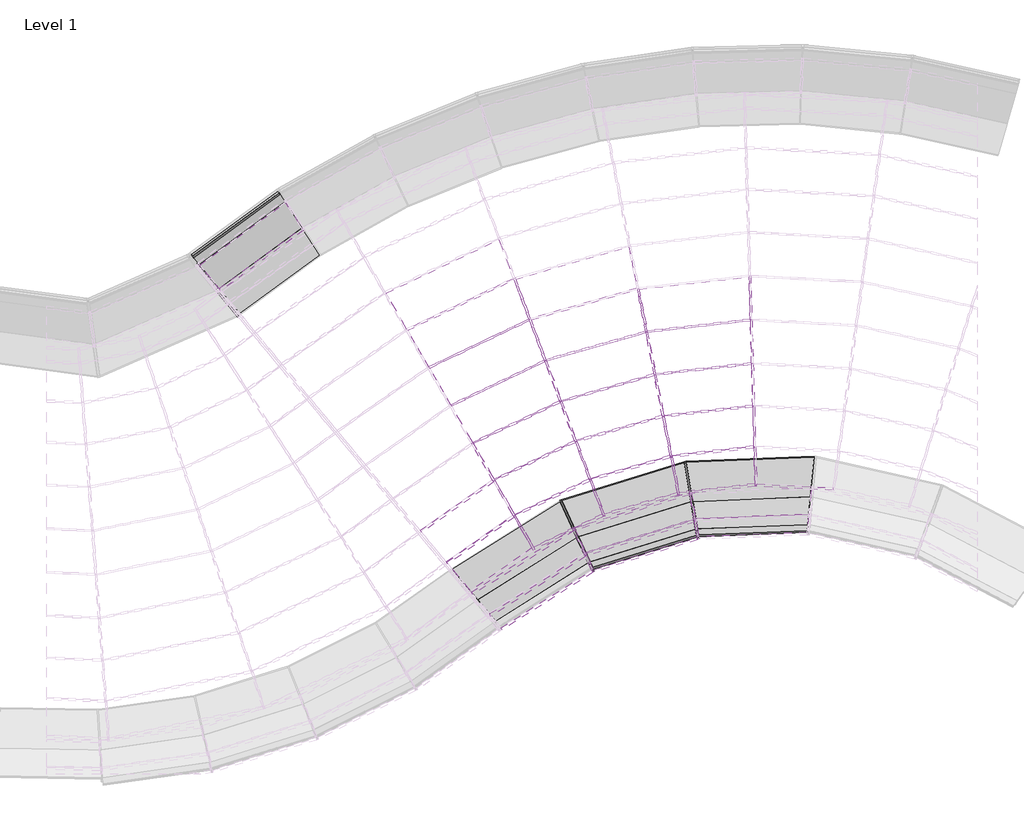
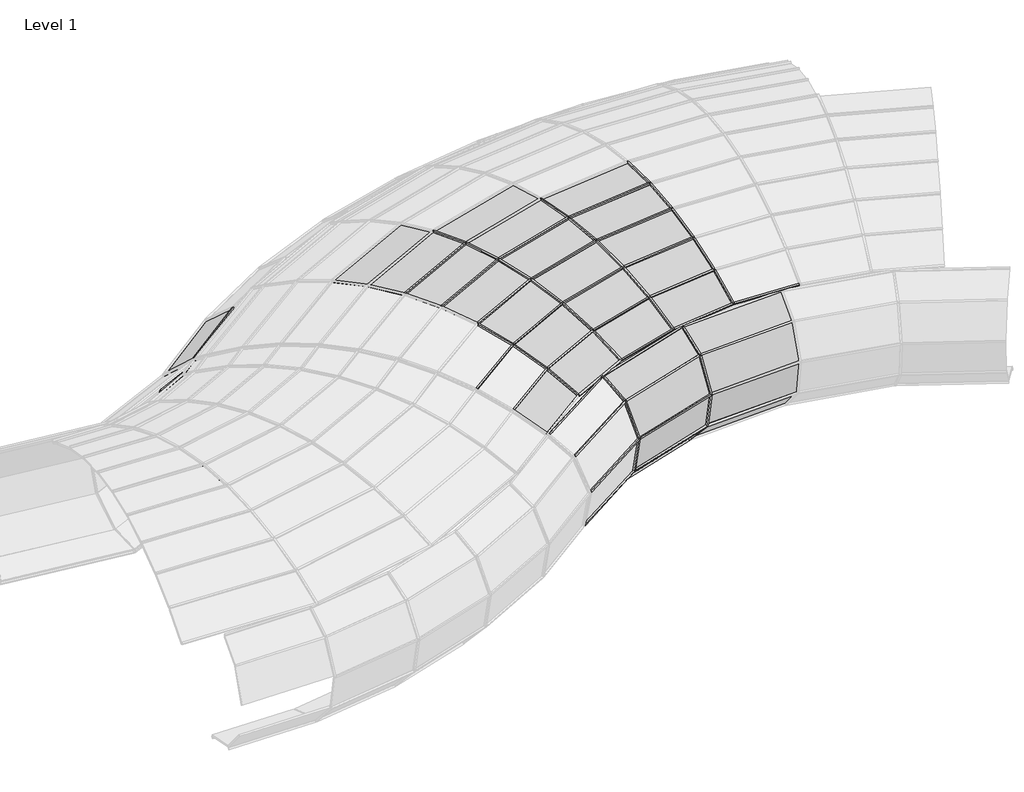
# One storey, part 8 of 23: 64 members, 36 plates.
"""IFC4 building model written with IfcOpenShell, lengths in millimetres."""

from ifc_helpers import new_model, si_unit, origin, place, context, project, spatial, transform, mapped, element, save
from components import member_a1596450, member_f2e23460, member_a2486feb, member_bfa7dfb4, member_bff08ed3, member_8a20969f, member_4c2c1438, member_dcc4074c, member_4657b864, member_55ed2e9f, member_3a0dd7d7, member_3a6df916, member_088ab3f2, member_d0141056, member_dae2b504, member_dc232313, member_c628317b, member_562bdd2e, member_15538b30, member_3e3d858e, member_d6b8231b, member_8c9da58c, member_391bee44, member_01ebdf2a, member_0cd36c09, member_e4cc2466, member_b147afb1, member_007022bd, system_panel_glazed_27e063cc, system_panel_glazed_479e5eac, system_panel_glazed_c66e7ca1, system_panel_glazed_7c909565, system_panel_glazed_86ca3999, system_panel_glazed_45ca7c27, system_panel_glazed_82840720, system_panel_glazed_217bc4a3, system_panel_glazed_a2d5a43f, system_panel_glazed_d9dfaa20, system_panel_glazed_11031df9, system_panel_glazed_6b8754b1, system_panel_glazed_51026fb6, system_panel_glazed_e1e187d2, system_panel_glazed_71638be0, system_panel_glazed_05378adf, system_panel_glazed_02202366, system_panel_glazed_899a4bea, system_panel_glazed_94578217, system_panel_glazed_710fb636

model = new_model("IFC4")

# Units and contexts
model_context = context("Model", 3, world=origin())
ifc_project = project(units=[si_unit("LENGTHUNIT", "METRE", prefix="MILLI")], contexts=[model_context])

# Site, building, storey
site = spatial("IfcSite", under=ifc_project)
building = spatial("IfcBuilding", under=site)
storey = spatial("IfcBuildingStorey", under=building, Name="Level 1", Elevation=0.0)

# Members
placement = place(None, origin())
member_shape = member_a1596450(model_context)
element("IfcMember", 1, ObjectType="Rectangular Mullion : 1\" Square", at=placement, inside=storey, context=model_context, shape_type="MappedRepresentation", body=[
    mapped(member_shape, transform((-1111.8650717, -7337.0860284, 629.7792003), x_axis=(0.1254313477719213, -0.4041226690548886, 0.906063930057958), y_axis=(0.2685839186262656, -0.8653406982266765, -0.4231408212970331), z_axis=(0.9550547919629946, 0.29642932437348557, 0.0))),
])
member_2_shape = member_f2e23460(model_context)
element("IfcMember", 2, ObjectType="Rectangular Mullion : 1\" Square", at=placement, inside=storey, context=model_context, shape_type="MappedRepresentation", body=[
    mapped(member_2_shape, transform((-2753.3298579, -7433.4239268, 170.8694653), x_axis=(0.44993567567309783, -0.7143075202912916, 0.5360248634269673), y_axis=(0.28568595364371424, -0.4535484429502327, -0.8442021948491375), z_axis=(0.8461332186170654, 0.5329714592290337, 0.0))),
])
member_3_shape = member_a2486feb(model_context)
element("IfcMember", 3, ObjectType="Rectangular Mullion : 1\" Square", at=placement, inside=storey, context=model_context, shape_type="MappedRepresentation", body=[
    mapped(member_3_shape, transform((-1179.8997774, -6941.630223, 170.8694653), x_axis=(0.2502462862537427, -0.8062593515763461, 0.5360248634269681), y_axis=(0.15889348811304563, -0.5119331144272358, -0.8442021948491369), z_axis=(0.9550547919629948, 0.29642932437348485, 0.0))),
])
member_4_shape = member_bfa7dfb4(model_context)
element("IfcMember", 4, ObjectType="Rectangular Mullion : 1\" Square", at=placement, inside=storey, context=model_context, shape_type="MappedRepresentation", body=[
    mapped(member_4_shape, transform((-2585.49608, -7797.9041569, 629.7792003), x_axis=(0.22552198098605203, -0.35803350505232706, 0.9060639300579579), y_axis=(0.48290621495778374, -0.766650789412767, -0.42314082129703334), z_axis=(0.8461332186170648, 0.5329714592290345, 0.0))),
])
member_5_shape = member_bff08ed3(model_context)
element("IfcMember", 5, ObjectType="Rectangular Mullion : 1\" Square", at=placement, inside=storey, context=model_context, shape_type="MappedRepresentation", body=[
    mapped(member_5_shape, transform((-2975.2057389, -6891.371253, 0.0), x_axis=(-0.2843538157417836, 0.916149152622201, -0.2825130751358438), y_axis=(0.08374515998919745, -0.2698154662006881, -0.9592634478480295), z_axis=(-0.9550547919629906, -0.29642932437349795, 0.0))),
])
element("IfcMember", 6, ObjectType="Rectangular Mullion : 1\" Square", at=placement, inside=storey, context=model_context, shape_type="MappedRepresentation", body=[
    mapped(member_5_shape, transform((-1254.2952304, -6360.6695321, 0.0), x_axis=(-0.03816382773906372, 0.958503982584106, -0.28251307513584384), y_axis=(0.011239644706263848, -0.2822894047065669, -0.9592634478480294), z_axis=(-0.999208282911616, -0.03978451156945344, 0.0))),
])
member_6_shape = member_8a20969f(model_context)
element("IfcMember", 7, ObjectType="Rectangular Mullion : 1\" Square", at=placement, inside=storey, context=model_context, shape_type="MappedRepresentation", body=[
    mapped(member_6_shape, transform((-2547.3241371, -7880.801168, 1232.5089476), x_axis=(-0.07158711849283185, 0.11365006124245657, 0.9909384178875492), y_axis=(0.5281418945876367, -0.8384659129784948, 0.1343169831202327), z_axis=(0.8461332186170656, 0.5329714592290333, 0.0))),
])
member_7_shape = member_4c2c1438(model_context)
element("IfcMember", 8, ObjectType="Rectangular Mullion : 1\" Square", at=placement, inside=storey, context=model_context, shape_type="MappedRepresentation", body=[
    mapped(member_7_shape, transform((-1096.3913277, -7427.0280926, 1232.5089476), x_axis=(-0.03981549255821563, 0.12828007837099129, 0.9909384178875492), y_axis=(0.2937432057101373, -0.9464004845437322, 0.13431698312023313), z_axis=(0.9550547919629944, 0.2964293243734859, 0.0))),
])
member_8_shape = member_dcc4074c(model_context)
element("IfcMember", 9, ObjectType="Rectangular Mullion : 1\" Square", at=placement, inside=storey, context=model_context, shape_type="MappedRepresentation", body=[
    mapped(member_8_shape, transform((-2650.8102171, -7656.0631521, 1789.6405438), x_axis=(-0.3454437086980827, 0.5484184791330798, 0.7615154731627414), y_axis=(0.4058660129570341, -0.644343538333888, 0.6481467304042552), z_axis=(0.8461332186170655, 0.5329714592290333, 0.0))),
])
member_9_shape = member_4657b864(model_context)
element("IfcMember", 10, ObjectType="Rectangular Mullion : 1\" Square", at=placement, inside=storey, context=model_context, shape_type="MappedRepresentation", body=[
    mapped(member_9_shape, transform((-1138.3414351, -7183.190579, 1789.6405438), x_axis=(-0.19212969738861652, 0.6190156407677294, 0.7615154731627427), y_axis=(0.22573551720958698, -0.7272890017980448, 0.6481467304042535), z_axis=(0.9550547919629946, 0.2964293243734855, 0.0))),
])
member_10_shape = member_55ed2e9f(model_context)
element("IfcMember", 11, ObjectType="Rectangular Mullion : 1\" Square", at=placement, inside=storey, context=model_context, shape_type="MappedRepresentation", body=[
    mapped(member_10_shape, transform((-2817.6547413, -7293.7312581, 2085.6089632), x_axis=(-0.4267186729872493, 0.6774487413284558, 0.5991447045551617), y_axis=(0.31932702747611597, -0.5069562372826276, 0.8006407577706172), z_axis=(0.846133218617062, 0.532971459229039, 0.0))),
])
member_11_shape = member_3a0dd7d7(model_context)
element("IfcMember", 12, ObjectType="Rectangular Mullion : 1\" Square", at=placement, inside=storey, context=model_context, shape_type="MappedRepresentation", body=[
    mapped(member_11_shape, transform((-1205.9751275, -6790.0656875, 2085.6089632), x_axis=(-0.23733339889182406, 0.7646557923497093, 0.5991447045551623), y_axis=(0.17760405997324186, -0.5722160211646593, 0.8006407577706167), z_axis=(0.9550547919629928, 0.29642932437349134, 0.0))),
])
member_12_shape = member_3a6df916(model_context)
element("IfcMember", 13, ObjectType="Rectangular Mullion : 1\" Square", at=placement, inside=storey, context=model_context, shape_type="MappedRepresentation", body=[
    mapped(member_12_shape, transform((-2993.9949592, -5535.8741986, 2763.3769688), x_axis=(-0.4208187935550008, 0.884659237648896, 0.20072263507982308), y_axis=(0.08622265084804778, -0.18126011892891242, 0.9796481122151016), z_axis=(0.9030377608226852, 0.42956117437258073, 0.0))),
])
element("IfcMember", 14, ObjectType="Rectangular Mullion : 1\" Square", at=placement, inside=storey, context=model_context, shape_type="MappedRepresentation", body=[
    mapped(member_12_shape, transform((-1693.052363, -5162.1086673, 2763.3769688), x_axis=(-0.26905503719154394, 0.9419765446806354, 0.2007226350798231), y_axis=(0.05512738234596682, -0.19300401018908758, 0.9796481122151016), z_axis=(0.9615458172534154, 0.2746445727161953, 0.0))),
])
element("IfcMember", 15, ObjectType="Rectangular Mullion : 1\" Square", at=placement, inside=storey, context=model_context, shape_type="MappedRepresentation", body=[
    mapped(member_12_shape, transform((-348.2653143, -5008.1602847, 2763.3769688), x_axis=(-0.10991316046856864, 0.9734626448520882, 0.2007226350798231), y_axis=(0.022520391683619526, -0.19945527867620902, 0.9796481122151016), z_axis=(0.9936860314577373, 0.11219657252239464, 0.0))),
])
member_13_shape = member_088ab3f2(model_context)
element("IfcMember", 16, ObjectType="Rectangular Mullion : 1\" Square", at=placement, inside=storey, context=model_context, shape_type="MappedRepresentation", body=[
    mapped(member_13_shape, transform((-3207.1818204, -4971.4017811, 2850.17796), x_axis=(-0.4280777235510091, 0.8999192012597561, 0.08303549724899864), y_axis=(0.03566882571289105, -0.07498418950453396, 0.996546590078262), z_axis=(0.9030377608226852, 0.42956117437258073, 0.0))),
])
element("IfcMember", 17, ObjectType="Rectangular Mullion : 1\" Square", at=placement, inside=storey, context=model_context, shape_type="MappedRepresentation", body=[
    mapped(member_13_shape, transform((-1810.1622416, -4570.193957, 2850.17796), x_axis=(-0.27369611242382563, 0.9582252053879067, 0.08303549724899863), y_axis=(0.022805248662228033, -0.07984243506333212, 0.996546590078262), z_axis=(0.9615458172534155, 0.27464457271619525, 0.0))),
])
element("IfcMember", 18, ObjectType="Rectangular Mullion : 1\" Square", at=placement, inside=storey, context=model_context, shape_type="MappedRepresentation", body=[
    mapped(member_13_shape, transform((-366.0867826, -4405.0349717, 2850.17796), x_axis=(-0.11180911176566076, 0.9902544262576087, 0.08303549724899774), y_axis=(0.009316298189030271, -0.08251121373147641, 0.9965465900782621), z_axis=(0.9936860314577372, 0.11219657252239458, 0.0))),
])
member_14_shape = member_d0141056(model_context)
element("IfcMember", 19, ObjectType="Rectangular Mullion : 1\" Square", at=placement, inside=storey, context=model_context, shape_type="MappedRepresentation", body=[
    mapped(member_14_shape, transform((-1578.7813335, -5739.674831, 2605.3528615), x_axis=(-0.2606075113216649, 0.912401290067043, 0.3156067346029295), y_axis=(0.0866796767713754, -0.3034703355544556, 0.9488900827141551), z_axis=(0.9615458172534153, 0.2746445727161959, 0.0))),
])
element("IfcMember", 20, ObjectType="Rectangular Mullion : 1\" Square", at=placement, inside=storey, context=model_context, shape_type="MappedRepresentation", body=[
    mapped(member_14_shape, transform((-2785.9759398, -6086.6632954, 2605.3528615), x_axis=(-0.40760633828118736, 0.8568835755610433, 0.3156067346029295), y_axis=(0.1355723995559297, -0.285004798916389, 0.9488900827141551), z_axis=(0.9030377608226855, 0.4295611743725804, 0.0))),
])
element("IfcMember", 21, ObjectType="Rectangular Mullion : 1\" Square", at=placement, inside=storey, context=model_context, shape_type="MappedRepresentation", body=[
    mapped(member_14_shape, transform((-330.8758544, -5596.6652959, 2605.3528615), x_axis=(-0.10646221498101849, 0.9428988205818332, 0.31560673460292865), y_axis=(0.03540999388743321, -0.31361400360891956, 0.9488900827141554), z_axis=(0.9936860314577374, 0.11219657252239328, 0.0))),
])
member_15_shape = member_dae2b504(model_context)
element("IfcMember", 22, ObjectType="Rectangular Mullion : 1\" Square", at=placement, inside=storey, context=model_context, shape_type="MappedRepresentation", body=[
    mapped(member_15_shape, transform((-3919.3555649, -6628.1154515, 2605.3528615), x_axis=(-0.5434276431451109, 0.7778681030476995, 0.31560673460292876), y_axis=(0.1807474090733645, -0.2587237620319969, 0.9488900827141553), z_axis=(0.8197662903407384, 0.5726982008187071, 0.0))),
])
member_16_shape = member_dc232313(model_context)
element("IfcMember", 23, ObjectType="Rectangular Mullion : 1\" Square", at=placement, inside=storey, context=model_context, shape_type="MappedRepresentation", body=[
    mapped(member_16_shape, transform((-314.165791, -6162.1777469, 2378.3537392), x_axis=(-0.10150277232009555, 0.898974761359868, 0.42607694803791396), y_axis=(0.047804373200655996, -0.4233867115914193, 0.9046869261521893), z_axis=(0.9936860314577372, 0.1121965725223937, 0.0))),
])
element("IfcMember", 24, ObjectType="Rectangular Mullion : 1\" Square", at=placement, inside=storey, context=model_context, shape_type="MappedRepresentation", body=[
    mapped(member_16_shape, transform((-1468.974809, -6294.675809, 2378.3537392), x_axis=(-0.24846735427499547, 0.8698979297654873, 0.42607694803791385), y_axis=(0.11701972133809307, -0.409692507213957, 0.9046869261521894), z_axis=(0.9615458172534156, 0.2746445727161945, 0.0))),
])
element("IfcMember", 25, ObjectType="Rectangular Mullion : 1\" Square", at=placement, inside=storey, context=model_context, shape_type="MappedRepresentation", body=[
    mapped(member_16_shape, transform((-2586.0841067, -6615.9333716, 2378.3537392), x_axis=(-0.388618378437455, 0.8169664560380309, 0.42607694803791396), y_axis=(0.18302611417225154, -0.38476357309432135, 0.9046869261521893), z_axis=(0.903037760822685, 0.4295611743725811, 0.0))),
])
member_17_shape = member_c628317b(model_context)
element("IfcMember", 26, ObjectType="Rectangular Mullion : 1\" Square", at=placement, inside=storey, context=model_context, shape_type="MappedRepresentation", body=[
    mapped(member_17_shape, transform((-3422.5036598, -4401.276406, 2864.5209769), x_axis=(-0.4292856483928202, 0.9024585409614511, -0.03581080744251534), y_axis=(-0.015382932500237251, 0.0323385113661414, 0.999358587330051), z_axis=(0.9030377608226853, 0.42956117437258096, 0.0))),
])
member_18_shape = member_562bdd2e(model_context)
element("IfcMember", 27, ObjectType="Rectangular Mullion : 1\" Square", at=placement, inside=storey, context=model_context, shape_type="MappedRepresentation", body=[
    mapped(member_18_shape, transform((-3634.8599263, -7117.1407985, 2378.3537392), x_axis=(-0.5181125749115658, 0.7416318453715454, 0.42607694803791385), y_axis=(0.2440135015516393, -0.3492835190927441, 0.9046869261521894), z_axis=(0.819766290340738, 0.5726982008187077, 0.0))),
])
member_19_shape = member_15538b30(model_context)
element("IfcMember", 28, ObjectType="Rectangular Mullion : 1\" Square", at=placement, inside=storey, context=model_context, shape_type="MappedRepresentation", body=[
    mapped(member_19_shape, transform((-3344.0990022, -7566.5976687, 2085.6089632), x_axis=(0.3764881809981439, -0.7914659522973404, -0.48149589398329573), y_axis=(0.2068319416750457, -0.4348089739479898, 0.8764483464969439), z_axis=(-0.9030377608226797, -0.4295611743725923, 0.0))),
])
element("IfcMember", 29, ObjectType="Rectangular Mullion : 1\" Square", at=placement, inside=storey, context=model_context, shape_type="MappedRepresentation", body=[
    mapped(member_19_shape, transform((-2373.4829728, -7107.2114507, 2085.6089632), x_axis=(0.24071178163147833, -0.842745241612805, -0.4814958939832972), y_axis=(0.13224023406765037, -0.4629803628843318, 0.876448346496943), z_axis=(-0.9615458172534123, -0.2746445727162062, 0.0))),
])
element("IfcMember", 30, ObjectType="Rectangular Mullion : 1\" Square", at=placement, inside=storey, context=model_context, shape_type="MappedRepresentation", body=[
    mapped(member_19_shape, transform((-1340.3634872, -6814.3030995, 2085.6089632), x_axis=(0.09833450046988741, -0.8709144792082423, -0.4814958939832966), y_axis=(0.05402218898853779, -0.47845574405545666, 0.8764483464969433), z_axis=(-0.9936860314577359, -0.11219657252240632, 0.0))),
])
element("IfcMember", 31, ObjectType="Rectangular Mullion : 1\" Square", at=placement, inside=storey, context=model_context, shape_type="MappedRepresentation", body=[
    mapped(member_19_shape, transform((-273.0711056, -6695.9048494, 2085.6089632), x_axis=(-0.04673934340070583, -0.8752011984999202, -0.481495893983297), y_axis=(-0.025677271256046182, -0.48081074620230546, 0.876448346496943), z_axis=(-0.9985770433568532, 0.05332812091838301, 0.0))),
])
member_20_shape = member_3e3d858e(model_context)
element("IfcMember", 32, ObjectType="Rectangular Mullion : 1\" Square", at=placement, inside=storey, context=model_context, shape_type="MappedRepresentation", body=[
    mapped(member_20_shape, transform((-7686.1774394, -3989.9190153, 2085.6089632), x_axis=(0.4544892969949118, -0.6207954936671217, 0.6387898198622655), y_axis=(-0.3773462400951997, 0.5154243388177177, 0.7693812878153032), z_axis=(-0.806876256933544, -0.5907204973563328, 0.0))),
])
member_21_shape = member_d6b8231b(model_context)
element("IfcMember", 33, ObjectType="Rectangular Mullion : 1\" Square", at=placement, inside=storey, context=model_context, shape_type="MappedRepresentation", body=[
    mapped(member_21_shape, transform((-2987.3349348, -6895.1359054, 0.0), x_axis=(0.9083268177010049, 0.41826115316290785, 0.0), y_axis=(0.11723763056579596, -0.2546018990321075, -0.9599131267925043), z_axis=(-0.40149437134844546, 0.8719148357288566, -0.28029767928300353))),
])
element("IfcMember", 34, ObjectType="Rectangular Mullion : 1\" Square", at=placement, inside=storey, context=model_context, shape_type="MappedRepresentation", body=[
    mapped(member_21_shape, transform((-1266.9851756, -6361.1747954, 0.0), x_axis=(0.985521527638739, 0.1695503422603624, 0.0), y_axis=(0.04752456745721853, -0.27623939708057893, -0.9599131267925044), z_axis=(-0.16275359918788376, 0.9460150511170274, -0.2802976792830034))),
])
member_22_shape = member_8c9da58c(model_context)
element("IfcMember", 35, ObjectType="Rectangular Mullion : 1\" Square", at=placement, inside=storey, context=model_context, shape_type="MappedRepresentation", body=[
    mapped(member_22_shape, transform((-2742.583966, -7426.6551893, 170.8694653), x_axis=(0.9083268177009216, 0.41826115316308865, 0.0), y_axis=(0.31486895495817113, -0.6837926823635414, -0.6582439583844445), z_axis=(-0.27531787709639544, 0.5979006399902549, -0.7528046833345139))),
])
element("IfcMember", 36, ObjectType="Rectangular Mullion : 1\" Square", at=placement, inside=storey, context=model_context, shape_type="MappedRepresentation", body=[
    mapped(member_22_shape, transform((-2574.7501881, -7791.1354194, 629.7792003), x_axis=(0.9083268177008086, 0.41826115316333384, 0.0), y_axis=(0.4135473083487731, -0.8980898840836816, -0.14971033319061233), z_axis=(-0.06261801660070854, 0.1359859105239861, -0.9887299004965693))),
])
element("IfcMember", 37, ObjectType="Rectangular Mullion : 1\" Square", at=placement, inside=storey, context=model_context, shape_type="MappedRepresentation", body=[
    mapped(member_22_shape, transform((-1167.7705815, -6937.8655706, 170.8694653), x_axis=(0.9855215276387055, 0.1695503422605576, 0.0), y_axis=(0.12763829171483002, -0.7419052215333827, -0.6582439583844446), z_axis=(-0.1116054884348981, 0.6487135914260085, -0.7528046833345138))),
])
element("IfcMember", 38, ObjectType="Rectangular Mullion : 1\" Square", at=placement, inside=storey, context=model_context, shape_type="MappedRepresentation", body=[
    mapped(member_22_shape, transform((-1099.7358758, -7333.3213759, 629.7792003), x_axis=(0.9855215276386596, 0.16955034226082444, 0.0), y_axis=(0.16763949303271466, -0.9744146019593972, -0.14971033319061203), z_axis=(-0.02538343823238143, 0.14754275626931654, -0.9887299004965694))),
])
member_23_shape = member_391bee44(model_context)
element("IfcMember", 39, ObjectType="Rectangular Mullion : 1\" Square", at=placement, inside=storey, context=model_context, shape_type="MappedRepresentation", body=[
    mapped(member_23_shape, transform((-2536.5782452, -7874.0324305, 1232.5089476), x_axis=(0.9083268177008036, 0.41826115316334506, 0.0), y_axis=(0.3822613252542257, -0.8301469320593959, 0.4058723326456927), z_axis=(0.16976062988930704, -0.3686647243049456, -0.9139297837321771))),
])
element("IfcMember", 40, ObjectType="Rectangular Mullion : 1\" Square", at=placement, inside=storey, context=model_context, shape_type="MappedRepresentation", body=[
    mapped(member_23_shape, transform((-1084.2621319, -7423.2634402, 1232.5089476), x_axis=(0.9855215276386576, 0.16955034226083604, 0.0), y_axis=(0.15495710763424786, -0.900697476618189, 0.4058723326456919), z_axis=(0.06881579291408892, -0.3999959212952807, -0.9139297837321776))),
])
member_24_shape = member_01ebdf2a(model_context)
element("IfcMember", 41, ObjectType="Rectangular Mullion : 1\" Square", at=placement, inside=storey, context=model_context, shape_type="MappedRepresentation", body=[
    mapped(member_24_shape, transform((-2640.0643252, -7649.2944145, 1789.6405438), x_axis=(0.9083268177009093, 0.4182611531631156, 0.0), y_axis=(0.24922510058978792, -0.541235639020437, 0.8030883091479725), z_axis=(0.3359006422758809, -0.7294666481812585, -0.5958600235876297))),
])
element("IfcMember", 42, ObjectType="Rectangular Mullion : 1\" Square", at=placement, inside=storey, context=model_context, shape_type="MappedRepresentation", body=[
    mapped(member_24_shape, transform((-1126.2122392, -7179.4259265, 1789.6405438), x_axis=(0.9855215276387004, 0.16955034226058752, 0.0), y_axis=(0.10102827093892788, -0.5872328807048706, 0.8030883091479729), z_axis=(0.13616389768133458, -0.7914608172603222, -0.5958600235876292))),
])
member_25_shape = member_0cd36c09(model_context)
element("IfcMember", 43, ObjectType="Rectangular Mullion : 1\" Square", at=placement, inside=storey, context=model_context, shape_type="MappedRepresentation", body=[
    mapped(member_25_shape, transform((-3624.4488944, -7109.8675314, 2378.3537392), x_axis=(0.864370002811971, 0.5028563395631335, 0.0), y_axis=(0.18725057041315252, -0.3218688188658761, 0.9280828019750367), z_axis=(0.46669232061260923, -0.8022069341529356, -0.3723738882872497))),
])
element("IfcMember", 44, ObjectType="Rectangular Mullion : 1\" Square", at=placement, inside=storey, context=model_context, shape_type="MappedRepresentation", body=[
    mapped(member_25_shape, transform((-3908.9445331, -6620.8421843, 2605.3528615), x_axis=(0.8643700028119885, 0.5028563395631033, 0.0), y_axis=(0.13035338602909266, -0.22406708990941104, 0.9658167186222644), z_axis=(0.48566705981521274, -0.8348229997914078, -0.2592258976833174))),
])
element("IfcMember", 45, ObjectType="Rectangular Mullion : 1\" Square", at=placement, inside=storey, context=model_context, shape_type="MappedRepresentation", body=[
    mapped(member_25_shape, transform((-2574.6155271, -6610.4779447, 2378.3537392), x_axis=(0.9355040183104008, 0.35331605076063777, 0.0), y_axis=(0.13156567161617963, -0.3483572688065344, 0.9280828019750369), z_axis=(0.3279065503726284, -0.868225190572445, -0.37237388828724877))),
])
element("IfcMember", 46, ObjectType="Rectangular Mullion : 1\" Square", at=placement, inside=storey, context=model_context, shape_type="MappedRepresentation", body=[
    mapped(member_25_shape, transform((-2774.5073603, -6081.2078685, 2605.3528615), x_axis=(0.9355040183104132, 0.3533160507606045, 0.0), y_axis=(0.0915886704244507, -0.24250686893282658, 0.9658167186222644), z_axis=(0.34123854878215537, -0.903525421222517, -0.25922589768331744))),
])
element("IfcMember", 47, ObjectType="Rectangular Mullion : 1\" Square", at=placement, inside=storey, context=model_context, shape_type="MappedRepresentation", body=[
    mapped(member_25_shape, transform((-2982.5263796, -5530.4187717, 2763.3769688), x_axis=(0.9355040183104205, 0.35331605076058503, 0.0), y_axis=(0.050308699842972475, -0.13320648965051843, 0.9898106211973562), z_axis=(0.3497159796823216, -0.9259718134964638, -0.1423900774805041))),
])
element("IfcMember", 48, ObjectType="Rectangular Mullion : 1\" Square", at=placement, inside=storey, context=model_context, shape_type="MappedRepresentation", body=[
    mapped(member_25_shape, transform((-3195.7132408, -4965.9463542, 2850.17796), x_axis=(0.9355040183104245, 0.3533160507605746, 0.0), y_axis=(0.00831302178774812, -0.02201107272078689, 0.9997231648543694), z_axis=(0.35321824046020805, -0.9352450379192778, -0.023528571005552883))),
])
element("IfcMember", 49, ObjectType="Rectangular Mullion : 1\" Square", at=placement, inside=storey, context=model_context, shape_type="MappedRepresentation", body=[
    mapped(member_25_shape, transform((-1456.7631771, -6291.1878229, 2378.3537392), x_axis=(0.9809843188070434, 0.1940870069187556, 0.0), y_axis=(0.07227293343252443, -0.3652929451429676, 0.9280828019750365), z_axis=(0.18012881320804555, -0.9104346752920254, -0.3723738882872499))),
])
element("IfcMember", 50, ObjectType="Rectangular Mullion : 1\" Square", at=placement, inside=storey, context=model_context, shape_type="MappedRepresentation", body=[
    mapped(member_25_shape, transform((-1566.5697016, -5736.1868449, 2605.3528615), x_axis=(0.9809843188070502, 0.1940870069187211, 0.0), y_axis=(0.050312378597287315, -0.2542965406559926, 0.9658167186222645), z_axis=(0.18745247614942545, -0.9474510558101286, -0.2592258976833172))),
])
element("IfcMember", 51, ObjectType="Rectangular Mullion : 1\" Square", at=placement, inside=storey, context=model_context, shape_type="MappedRepresentation", body=[
    mapped(member_25_shape, transform((-1680.8407311, -5158.6206813, 2763.3769688), x_axis=(0.9809843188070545, 0.19408700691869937, 0.0), y_axis=(0.02763606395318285, -0.13968243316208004, 0.9898106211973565), z_axis=(0.19210938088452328, -0.9709886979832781, -0.142390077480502))),
])
element("IfcMember", 52, ObjectType="Rectangular Mullion : 1\" Square", at=placement, inside=storey, context=model_context, shape_type="MappedRepresentation", body=[
    mapped(member_25_shape, transform((-1797.9506097, -4566.705971, 2850.17796), x_axis=(0.9809843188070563, 0.19408700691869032, 0.0), y_axis=(0.004566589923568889, -0.023081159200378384, 0.9997231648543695), z_axis=(0.19403327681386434, -0.9807127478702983, -0.023528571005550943))),
])
element("IfcMember", 53, ObjectType="Rectangular Mullion : 1\" Square", at=placement, inside=storey, context=model_context, shape_type="MappedRepresentation", body=[
    mapped(member_25_shape, transform((-301.5459784, -6160.7528504, 2378.3537392), x_axis=(0.9995637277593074, 0.02953564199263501, 0.0), y_axis=(0.010998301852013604, -0.37221143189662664, 0.9280828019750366), z_axis=(0.02741152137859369, -0.9276779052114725, -0.3723738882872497))),
])
element("IfcMember", 54, ObjectType="Rectangular Mullion : 1\" Square", at=placement, inside=storey, context=model_context, shape_type="MappedRepresentation", body=[
    mapped(member_25_shape, transform((-318.2560418, -5595.2403994, 2605.3528615), x_axis=(0.9995637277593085, 0.029535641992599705, 0.0), y_axis=(0.007656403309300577, -0.2591128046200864, 0.9658167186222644), z_axis=(0.028526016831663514, -0.9653953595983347, -0.25922589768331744))),
])
element("IfcMember", 55, ObjectType="Rectangular Mullion : 1\" Square", at=placement, inside=storey, context=model_context, shape_type="MappedRepresentation", body=[
    mapped(member_25_shape, transform((-335.6455017, -5006.7353882, 2763.3769688), x_axis=(0.9995637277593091, 0.02953564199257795, 0.0), y_axis=(0.004205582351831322, -0.1423279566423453, 0.9898106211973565), z_axis=(0.02923469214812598, -0.9893787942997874, -0.14239007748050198))),
])
element("IfcMember", 56, ObjectType="Rectangular Mullion : 1\" Square", at=placement, inside=storey, context=model_context, shape_type="MappedRepresentation", body=[
    mapped(member_25_shape, transform((-353.46697, -4403.6100752, 2850.17796), x_axis=(0.9995637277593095, 0.02953564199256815, 0.0), y_axis=(0.0006949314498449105, -0.023518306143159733, 0.9997231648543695), z_axis=(0.029527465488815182, -0.9992870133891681, -0.023528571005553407))),
])
element("IfcMember", 57, ObjectType="Rectangular Mullion : 1\" Square", at=placement, inside=storey, context=model_context, shape_type="MappedRepresentation", body=[
    mapped(member_25_shape, transform((-3411.0350802, -4395.8209791, 2864.5209769), x_axis=(0.9355040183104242, 0.3533160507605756, 0.0), y_axis=(-0.03380091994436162, 0.08949748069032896, 0.9954133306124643), z_axis=(0.3516955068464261, -0.9312131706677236, 0.09566766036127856))),
])
member_26_shape = member_e4cc2466(model_context)
element("IfcMember", 58, ObjectType="Rectangular Mullion : 1\" Square", at=placement, inside=storey, context=model_context, shape_type="MappedRepresentation", body=[
    mapped(member_26_shape, transform((-3355.5675817, -7572.0530956, 2085.6089632), x_axis=(0.8643700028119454, 0.5028563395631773, 0.0), y_axis=(0.2414838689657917, -0.41509154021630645, 0.877145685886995), z_axis=(0.441078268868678, -0.7581784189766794, -0.48022437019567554))),
])
element("IfcMember", 59, ObjectType="Rectangular Mullion : 1\" Square", at=placement, inside=storey, context=model_context, shape_type="MappedRepresentation", body=[
    mapped(member_26_shape, transform((-2385.6946047, -7110.6994368, 2085.6089632), x_axis=(0.9355040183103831, 0.3533160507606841, 0.0), y_axis=(0.16967097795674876, -0.4492518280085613, 0.8771456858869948), z_axis=(0.3099096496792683, -0.8205733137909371, -0.4802243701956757))),
])
element("IfcMember", 60, ObjectType="Rectangular Mullion : 1\" Square", at=placement, inside=storey, context=model_context, shape_type="MappedRepresentation", body=[
    mapped(member_26_shape, transform((-1352.9832998, -6815.727996, 2085.6089632), x_axis=(0.9809843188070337, 0.19408700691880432, 0.0), y_axis=(0.09320531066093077, -0.4710925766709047, 0.8771456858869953), z_axis=(0.17024258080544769, -0.8604661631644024, -0.48022437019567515))),
])
element("IfcMember", 61, ObjectType="Rectangular Mullion : 1\" Square", at=placement, inside=storey, context=model_context, shape_type="MappedRepresentation", body=[
    mapped(member_26_shape, transform((-285.753034, -6695.2275823, 2085.6089632), x_axis=(0.9995637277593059, 0.029535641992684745, 0.0), y_axis=(0.01418373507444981, -0.4800148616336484, 0.8771456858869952), z_axis=(0.025907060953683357, -0.8767630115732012, -0.48022437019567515))),
])
element("IfcMember", 62, ObjectType="Rectangular Mullion : 1\" Square", at=placement, inside=storey, context=model_context, shape_type="MappedRepresentation", body=[
    mapped(member_24_shape, transform((-7754.5170849, -3976.7167342, 113.4427618), x_axis=(0.7730505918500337, 0.6343443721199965, 0.0), y_axis=(-0.14487743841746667, 0.1765564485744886, -0.9735698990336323), z_axis=(-0.6175785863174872, 0.7526187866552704, 0.2283892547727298))),
])
member_27_shape = member_b147afb1(model_context)
element("IfcMember", 63, ObjectType="Rectangular Mullion : 1\" Square", at=placement, inside=storey, context=model_context, shape_type="MappedRepresentation", body=[
    mapped(member_27_shape, transform((-7740.012547, -3964.7474807, 113.4427618), x_axis=(-0.7867125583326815, -0.6165764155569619, -0.030279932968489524), y_axis=(-0.4008693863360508, 0.5475550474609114, -0.7344979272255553), z_axis=(0.46945402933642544, -0.5657004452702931, -0.6779350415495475))),
])
member_28_shape = member_007022bd(model_context)
element("IfcMember", 64, ObjectType="Rectangular Mullion : 1\" Square", at=placement, inside=storey, context=model_context, shape_type="MappedRepresentation", body=[
    mapped(member_28_shape, transform((-7740.012547, -3964.7474807, 113.4427618), x_axis=(0.7696248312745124, 0.6384960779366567, 0.0006144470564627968), y_axis=(-0.14536530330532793, 0.17615606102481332, -0.973569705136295), z_axis=(-0.6217286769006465, 0.74919410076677, 0.22838925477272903))),
])

# Plates
system_panel_glazed_shape = system_panel_glazed_27e063cc(model_context)
element("IfcPlate", 65, ObjectType="System Panel : Glazed", at=placement, inside=storey, context=model_context, shape_type="MappedRepresentation", body=[
    mapped(system_panel_glazed_shape, transform((-3731.0076368, -7392.364483, 7.1758321), x_axis=(0.8461332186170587, 0.5329714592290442, 0.0), y_axis=(-0.15057140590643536, 0.23904369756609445, 0.9592634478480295), z_axis=(0.5112600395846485, -0.8116646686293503, 0.28251307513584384))),
])
system_panel_glazed_2_shape = system_panel_glazed_479e5eac(model_context)
element("IfcPlate", 66, ObjectType="System Panel : Glazed", at=placement, inside=storey, context=model_context, shape_type="MappedRepresentation", body=[
    mapped(system_panel_glazed_2_shape, transform((-3803.316797, -7857.6996082, 2097.8389589), x_axis=(0.819766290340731, 0.5726982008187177, 0.0), y_axis=(-0.27575183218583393, 0.3947141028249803, -0.8764483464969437), z_axis=(-0.5019403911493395, 0.7184828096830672, 0.48149589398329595))),
])
system_panel_glazed_3_shape = system_panel_glazed_c66e7ca1(model_context)
element("IfcPlate", 67, ObjectType="System Panel : Glazed", at=placement, inside=storey, context=model_context, shape_type="MappedRepresentation", body=[
    mapped(system_panel_glazed_3_shape, transform((-7129.2735474, -3557.9855859, 2069.3837017), x_axis=(0.8068762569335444, 0.5907204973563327, 0.0), y_axis=(0.3773462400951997, -0.5154243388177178, -0.7693812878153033), z_axis=(-0.45448929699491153, 0.620795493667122, -0.6387898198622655))),
])
system_panel_glazed_4_shape = system_panel_glazed_7c909565(model_context)
element("IfcPlate", 68, ObjectType="System Panel : Glazed", at=placement, inside=storey, context=model_context, shape_type="MappedRepresentation", body=[
    mapped(system_panel_glazed_4_shape, transform((-2119.9374683, -6651.4255389, 7.1758321), x_axis=(0.9550547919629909, 0.29642932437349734, 0.0), y_axis=(-0.08374515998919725, 0.26981546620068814, 0.9592634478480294), z_axis=(0.28435381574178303, -0.9161491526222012, 0.28251307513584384))),
])
element("IfcPlate", 69, ObjectType="System Panel : Glazed", at=placement, inside=storey, context=model_context, shape_type="MappedRepresentation", body=[
    mapped(system_panel_glazed_4_shape, transform((-366.0738721, -6349.6886771, 7.1758321), x_axis=(0.999208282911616, 0.03978451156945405, 0.0), y_axis=(-0.011239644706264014, 0.2822894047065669, 0.9592634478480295), z_axis=(0.03816382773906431, -0.9585039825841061, 0.2825130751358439))),
])
system_panel_glazed_5_shape = system_panel_glazed_86ca3999(model_context)
element("IfcPlate", 70, ObjectType="System Panel : Glazed", at=placement, inside=storey, context=model_context, shape_type="MappedRepresentation", body=[
    mapped(system_panel_glazed_5_shape, transform((-3430.3622695, -7869.7123109, 180.4653952), x_axis=(0.8461332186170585, 0.5329714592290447, 0.0), y_axis=(-0.40270525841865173, 0.639325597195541, 0.6550505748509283), z_axis=(0.34912326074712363, -0.5542600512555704, 0.7555850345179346))),
])
system_panel_glazed_6_shape = system_panel_glazed_45ca7c27(model_context)
element("IfcPlate", 71, ObjectType="System Panel : Glazed", at=placement, inside=storey, context=model_context, shape_type="MappedRepresentation", body=[
    mapped(system_panel_glazed_6_shape, transform((-1952.711236, -7190.2056167, 180.4653952), x_axis=(0.955054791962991, 0.29642932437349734, 0.0), y_axis=(-0.22397756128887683, 0.7216251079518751, 0.6550505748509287), z_axis=(0.19417619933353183, -0.6256091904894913, 0.7555850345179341))),
])
element("IfcPlate", 72, ObjectType="System Panel : Glazed", at=placement, inside=storey, context=model_context, shape_type="MappedRepresentation", body=[
    mapped(system_panel_glazed_6_shape, transform((-343.6300266, -6913.3772957, 180.4653952), x_axis=(0.999208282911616, 0.039784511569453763, 0.0), y_axis=(-0.030060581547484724, 0.7549868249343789, 0.6550505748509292), z_axis=(0.026060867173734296, -0.6545319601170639, 0.7555850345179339))),
])
system_panel_glazed_7_shape = system_panel_glazed_82840720(model_context)
element("IfcPlate", 73, ObjectType="System Panel : Glazed", at=placement, inside=storey, context=model_context, shape_type="MappedRepresentation", body=[
    mapped(system_panel_glazed_7_shape, transform((-1836.6841165, -7564.0291469, 642.3384564), x_axis=(0.9550547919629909, 0.2964293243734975, 0.0), y_axis=(-0.2931442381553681, 0.9444706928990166, 0.14846402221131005), z_axis=(0.04400908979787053, -0.1417912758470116, 0.9889178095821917))),
])
element("IfcPlate", 74, ObjectType="System Panel : Glazed", at=placement, inside=storey, context=model_context, shape_type="MappedRepresentation", body=[
    mapped(system_panel_glazed_7_shape, transform((-328.0577404, -7304.4831996, 642.3384564), x_axis=(0.9992082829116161, 0.03978451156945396, 0.0), y_axis=(-0.039343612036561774, 0.9881348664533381, 0.14846402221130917), z_axis=(0.005906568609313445, -0.14834648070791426, 0.9889178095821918))),
])
system_panel_glazed_8_shape = system_panel_glazed_217bc4a3(model_context)
element("IfcPlate", 75, ObjectType="System Panel : Glazed", at=placement, inside=storey, context=model_context, shape_type="MappedRepresentation", body=[
    mapped(system_panel_glazed_8_shape, transform((-1811.9372688, -7643.7601099, 1244.1320982), x_axis=(0.955054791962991, 0.29642932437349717, 0.0), y_axis=(-0.2712946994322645, 0.8740744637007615, -0.4029801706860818), z_axis=(-0.1194551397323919, 0.3848681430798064, 0.9152087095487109))),
])
element("IfcPlate", 76, ObjectType="System Panel : Glazed", at=placement, inside=storey, context=model_context, shape_type="MappedRepresentation", body=[
    mapped(system_panel_glazed_8_shape, transform((-324.7364048, -7387.9002343, 1244.1320982), x_axis=(0.999208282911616, 0.03978451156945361, 0.0), y_axis=(-0.03641113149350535, 0.9144841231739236, -0.40298017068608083), z_axis=(-0.016032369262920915, 0.40266112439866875, 0.9152087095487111))),
])
system_panel_glazed_9_shape = system_panel_glazed_a2d5a43f(model_context)
element("IfcPlate", 77, ObjectType="System Panel : Glazed", at=placement, inside=storey, context=model_context, shape_type="MappedRepresentation", body=[
    mapped(system_panel_glazed_9_shape, transform((-1886.1524164, -7404.649042, 1797.2496815), x_axis=(0.955054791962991, 0.296429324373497, 0.0), y_axis=(-0.1776040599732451, 0.5722160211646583, -0.8006407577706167), z_axis=(-0.2373333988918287, 0.7646557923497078, 0.5991447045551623))),
])
element("IfcPlate", 78, ObjectType="System Panel : Glazed", at=placement, inside=storey, context=model_context, shape_type="MappedRepresentation", body=[
    mapped(system_panel_glazed_9_shape, transform((-334.6970031, -7137.7347342, 1797.2496815), x_axis=(0.999208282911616, 0.039784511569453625, 0.0), y_axis=(-0.02383667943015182, 0.5986703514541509, -0.8006407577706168), z_axis=(-0.03185310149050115, 0.8000068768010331, 0.5991447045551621))),
])
system_panel_glazed_10_shape = system_panel_glazed_d9dfaa20(model_context)
element("IfcPlate", 79, ObjectType="System Panel : Glazed", at=placement, inside=storey, context=model_context, shape_type="MappedRepresentation", body=[
    mapped(system_panel_glazed_10_shape, transform((-2880.193893, -7321.273031, 2097.8389589), x_axis=(0.9030377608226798, 0.42956117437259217, 0.0), y_axis=(-0.20683194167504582, 0.43480897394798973, -0.8764483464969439), z_axis=(-0.3764881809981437, 0.7914659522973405, 0.48149589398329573))),
])
element("IfcPlate", 80, ObjectType="System Panel : Glazed", at=placement, inside=storey, context=model_context, shape_type="MappedRepresentation", body=[
    mapped(system_panel_glazed_10_shape, transform((-1875.4530315, -6941.8079872, 2097.8389589), x_axis=(0.961545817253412, 0.27464457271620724, 0.0), y_axis=(-0.13224023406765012, 0.4629803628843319, -0.876448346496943), z_axis=(-0.2407117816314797, 0.8427452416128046, 0.48149589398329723))),
])
element("IfcPlate", 81, ObjectType="System Panel : Glazed", at=placement, inside=storey, context=model_context, shape_type="MappedRepresentation", body=[
    mapped(system_panel_glazed_10_shape, transform((-821.8658632, -6733.3565614, 2097.8389589), x_axis=(0.9936860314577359, 0.1121965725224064, 0.0), y_axis=(-0.05402218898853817, 0.47845574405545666, -0.8764483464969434), z_axis=(-0.0983345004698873, 0.8709144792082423, 0.4814958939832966))),
])
system_panel_glazed_11_shape = system_panel_glazed_11031df9(model_context)
element("IfcPlate", 82, ObjectType="System Panel : Glazed", at=placement, inside=storey, context=model_context, shape_type="MappedRepresentation", body=[
    mapped(system_panel_glazed_11_shape, transform((-3104.5928773, -6849.5340369, 2383.0969125), x_axis=(0.9030377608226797, 0.4295611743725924, 0.0), y_axis=(-0.1604317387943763, 0.33726492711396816, -0.9276389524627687), z_axis=(-0.39847767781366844, 0.8376930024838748, 0.37347821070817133))),
])
element("IfcPlate", 83, ObjectType="System Panel : Glazed", at=placement, inside=storey, context=model_context, shape_type="MappedRepresentation", body=[
    mapped(system_panel_glazed_11_shape, transform((-2018.9249439, -6439.5048984, 2383.0969125), x_axis=(0.9615458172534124, 0.27464457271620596, 0.0), y_axis=(-0.10257376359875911, 0.3591164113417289, -0.9276389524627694), z_axis=(-0.25477100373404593, 0.891967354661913, 0.3734782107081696))),
])
element("IfcPlate", 84, ObjectType="System Panel : Glazed", at=placement, inside=storey, context=model_context, shape_type="MappedRepresentation", body=[
    mapped(system_panel_glazed_11_shape, transform((-880.4763672, -6214.2637069, 2383.0969125), x_axis=(0.9936860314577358, 0.1121965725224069, 0.0), y_axis=(-0.04190297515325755, 0.3711200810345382, -0.9276389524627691), z_axis=(-0.1040779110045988, 0.92178186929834, 0.3734782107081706))),
])
system_panel_glazed_12_shape = system_panel_glazed_6b8754b1(model_context)
element("IfcPlate", 85, ObjectType="System Panel : Glazed", at=placement, inside=storey, context=model_context, shape_type="MappedRepresentation", body=[
    mapped(system_panel_glazed_12_shape, transform((-3346.9936676, -6339.9510486, 2608.6556077), x_axis=(0.9030377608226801, 0.4295611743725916, 0.0), y_axis=(-0.11171114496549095, 0.23484287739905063, -0.9655927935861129), z_axis=(-0.4147811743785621, 0.8719667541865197, 0.260058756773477))),
])
element("IfcPlate", 86, ObjectType="System Panel : Glazed", at=placement, inside=storey, context=model_context, shape_type="MappedRepresentation", body=[
    mapped(system_panel_glazed_12_shape, transform((-2173.9065052, -5896.905893, 2608.6556077), x_axis=(0.9615458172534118, 0.27464457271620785, 0.0), y_axis=(-0.07142372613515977, 0.2500584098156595, -0.9655927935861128), z_axis=(-0.2651948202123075, 0.9284617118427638, 0.26005875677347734))),
])
element("IfcPlate", 87, ObjectType="System Panel : Glazed", at=placement, inside=storey, context=model_context, shape_type="MappedRepresentation", body=[
    mapped(system_panel_glazed_12_shape, transform((-943.7887415, -5653.528022, 2608.6556077), x_axis=(0.9936860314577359, 0.11219657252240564, 0.0), y_axis=(-0.029177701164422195, 0.2584167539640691, -0.9655927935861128), z_axis=(-0.10833620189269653, 0.9594960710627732, 0.2600587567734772))),
])
system_panel_glazed_13_shape = system_panel_glazed_51026fb6(model_context)
element("IfcPlate", 88, ObjectType="System Panel : Glazed", at=placement, inside=storey, context=model_context, shape_type="MappedRepresentation", body=[
    mapped(system_panel_glazed_13_shape, transform((-3599.1662378, -5809.8255001, 2765.1914265), x_axis=(0.9030377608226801, 0.4295611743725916, 0.0), y_axis=(-0.06137170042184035, 0.1290176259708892, -0.9897413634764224), z_axis=(-0.42515446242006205, 0.8937738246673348, 0.14287068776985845))),
])
element("IfcPlate", 89, ObjectType="System Panel : Glazed", at=placement, inside=storey, context=model_context, shape_type="MappedRepresentation", body=[
    mapped(system_panel_glazed_13_shape, transform((-2335.1357594, -5332.4333693, 2765.1914265), x_axis=(0.9615458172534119, 0.27464457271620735, 0.0), y_axis=(-0.03923865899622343, 0.13737671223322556, -0.9897413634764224), z_axis=(-0.27182709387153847, 0.9516816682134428, 0.14287068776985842))),
])
element("IfcPlate", 90, ObjectType="System Panel : Glazed", at=placement, inside=storey, context=model_context, shape_type="MappedRepresentation", body=[
    mapped(system_panel_glazed_13_shape, transform((-1009.6533953, -5070.1876842, 2765.1914265), x_axis=(0.9936860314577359, 0.11219657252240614, 0.0), y_axis=(-0.016029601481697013, 0.14196860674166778, -0.9897413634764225), z_axis=(-0.11104558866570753, 0.9834921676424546, 0.14287068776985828))),
])
system_panel_glazed_14_shape = system_panel_glazed_e1e187d2(model_context)
element("IfcPlate", 91, ObjectType="System Panel : Glazed", at=placement, inside=storey, context=model_context, shape_type="MappedRepresentation", body=[
    mapped(system_panel_glazed_14_shape, transform((-3857.522993, -5266.6993528, 2850.4778018), x_axis=(0.9030377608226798, 0.4295611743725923, 0.0), y_axis=(-0.010141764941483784, 0.021320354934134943, -0.9997212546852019), z_axis=(-0.42944143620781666, 0.9027860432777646, 0.023609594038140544))),
])
element("IfcPlate", 92, ObjectType="System Panel : Glazed", at=placement, inside=storey, context=model_context, shape_type="MappedRepresentation", body=[
    mapped(system_panel_glazed_14_shape, transform((-2500.3189391, -4754.1179347, 2850.4778018), x_axis=(0.9615458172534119, 0.27464457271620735, 0.0), y_axis=(-0.006484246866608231, 0.022701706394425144, -0.9997212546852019), z_axis=(-0.274568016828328, 0.9612777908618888, 0.023609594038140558))),
])
element("IfcPlate", 93, ObjectType="System Panel : Glazed", at=placement, inside=storey, context=model_context, shape_type="MappedRepresentation", body=[
    mapped(system_panel_glazed_14_shape, transform((-1077.1332891, -4472.5417282, 2850.4778018), x_axis=(0.9936860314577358, 0.11219657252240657, 0.0), y_axis=(-0.0026489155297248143, 0.023460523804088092, -0.9997212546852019), z_axis=(-0.11216529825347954, 0.9934090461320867, 0.023609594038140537))),
])
system_panel_glazed_15_shape = system_panel_glazed_71638be0(model_context)
element("IfcPlate", 94, ObjectType="System Panel : Glazed", at=placement, inside=storey, context=model_context, shape_type="MappedRepresentation", body=[
    mapped(system_panel_glazed_15_shape, transform((-4118.3884212, -4718.2993898, 2863.3018499), x_axis=(0.9030377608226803, 0.4295611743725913, 0.0), y_axis=(0.041235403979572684, -0.08668643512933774, -0.9953818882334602), z_axis=(-0.42757741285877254, 0.8988674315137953, -0.09599425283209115))),
])
element("IfcPlate", 95, ObjectType="System Panel : Glazed", at=placement, inside=storey, context=model_context, shape_type="MappedRepresentation", body=[
    mapped(system_panel_glazed_15_shape, transform((-2667.1060659, -4170.1869923, 2863.3018499), x_axis=(0.9615458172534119, 0.2746445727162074, 0.0), y_axis=(0.026364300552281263, -0.0923028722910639, -0.9953818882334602), z_axis=(-0.2733762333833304, 0.9571052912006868, -0.09599425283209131))),
])
system_panel_glazed_16_shape = system_panel_glazed_05378adf(model_context)
element("IfcPlate", 96, ObjectType="System Panel : Glazed", at=placement, inside=storey, context=model_context, shape_type="MappedRepresentation", body=[
    mapped(system_panel_glazed_16_shape, transform((-4378.0513889, -4172.427279, 2803.4815699), x_axis=(0.9030377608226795, 0.429561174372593, 0.0), y_axis=(0.09201407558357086, -0.19343504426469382, -0.9767887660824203), z_axis=(-0.41959052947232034, 0.8820771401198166, -0.2142048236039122))),
])
system_panel_glazed_17_shape = system_panel_glazed_02202366(model_context)
element("IfcPlate", 97, ObjectType="System Panel : Glazed", at=placement, inside=storey, context=model_context, shape_type="MappedRepresentation", body=[
    mapped(system_panel_glazed_17_shape, transform((-7396.7770208, -3192.6074606, 1684.5336808), x_axis=(0.8068762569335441, 0.5907204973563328, 0.0), y_axis=(0.5625568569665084, -0.7684070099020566, -0.3050908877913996), z_axis=(-0.1802234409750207, 0.24617059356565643, -0.9523232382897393))),
])
system_panel_glazed_18_shape = system_panel_glazed_899a4bea(model_context)
element("IfcPlate", 98, ObjectType="System Panel : Glazed", at=placement, inside=storey, context=model_context, shape_type="MappedRepresentation", body=[
    mapped(system_panel_glazed_18_shape, transform((-7502.4255285, -3048.3007375, 1103.9095249), x_axis=(0.8068762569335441, 0.5907204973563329, 0.0), y_axis=(0.5712918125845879, -0.780338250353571, 0.25435777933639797), z_axis=(0.15025435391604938, -0.20523525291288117, -0.9671101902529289))),
])
system_panel_glazed_19_shape = system_panel_glazed_94578217(model_context)
element("IfcPlate", 99, ObjectType="System Panel : Glazed", at=placement, inside=storey, context=model_context, shape_type="MappedRepresentation", body=[
    mapped(system_panel_glazed_19_shape, transform((-7407.2348503, -3178.3140469, 518.0936043), x_axis=(0.8068762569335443, 0.5907204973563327, 0.0), y_axis=(0.4008693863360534, -0.5475550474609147, 0.7344979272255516), z_axis=(0.43388298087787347, -0.5926489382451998, -0.6786109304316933))),
])
system_panel_glazed_20_shape = system_panel_glazed_710fb636(model_context)
element("IfcPlate", 100, ObjectType="System Panel : Glazed", at=placement, inside=storey, context=model_context, shape_type="MappedRepresentation", body=[
    mapped(system_panel_glazed_20_shape, transform((-7141.2065083, -3541.6790701, 110.5371405), x_axis=(0.8068762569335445, 0.5907204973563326, 0.0), y_axis=(0.13515039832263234, -0.1846044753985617, 0.9734760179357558), z_axis=(0.5750522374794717, -0.7854746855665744, -0.22878907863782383))),
])

save(model, "model.ifc")
